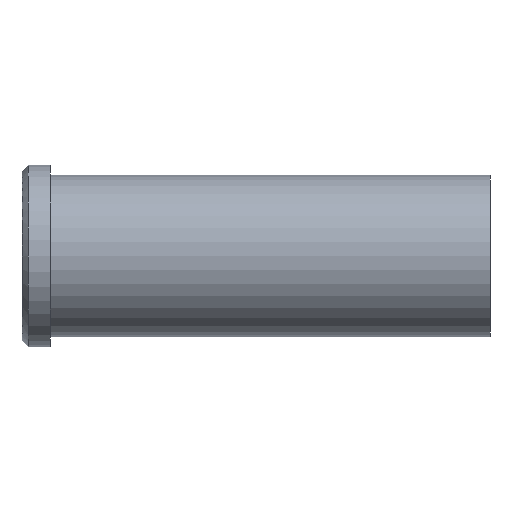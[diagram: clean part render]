
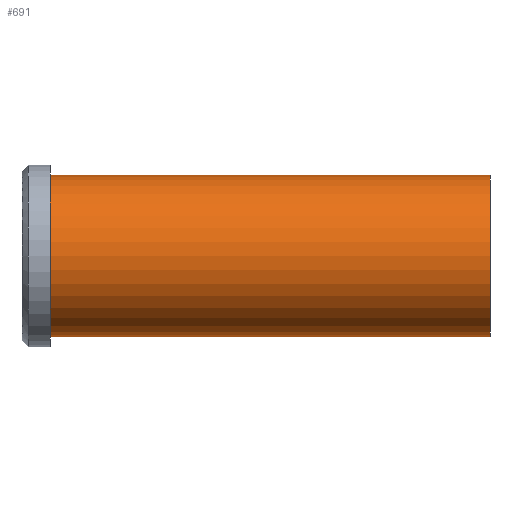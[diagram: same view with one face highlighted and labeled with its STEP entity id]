
A CAD part, front view. The second image highlights one B-rep face of the part: STEP entity #691.
In plain terms, the highlighted cylindrical face has radius 20 mm (diameter 40 mm), a partial arc.
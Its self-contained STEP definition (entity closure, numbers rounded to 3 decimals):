
#501=CARTESIAN_POINT('Vertex',(0.,0.,-20.)) ;
#506=CARTESIAN_POINT('Axis2P3D Location',(0.,0.,0.)) ;
#510=CARTESIAN_POINT('Vertex',(0.,-20.,0.)) ;
#513=CARTESIAN_POINT('Axis2P3D Location',(0.,0.,0.)) ;
#517=CARTESIAN_POINT('Vertex',(0.,0.,20.)) ;
#631=CARTESIAN_POINT('Line Origine',(109.,0.,20.)) ;
#635=CARTESIAN_POINT('Vertex',(109.,0.,20.)) ;
#649=CARTESIAN_POINT('Vertex',(109.,0.,-20.)) ;
#652=CARTESIAN_POINT('Line Origine',(109.,0.,-20.)) ;
#666=CARTESIAN_POINT('Axis2P3D Location',(109.,0.,0.)) ;
#671=CARTESIAN_POINT('Axis2P3D Location',(109.,0.,0.)) ;
#675=CARTESIAN_POINT('Vertex',(109.,-20.,0.)) ;
#678=CARTESIAN_POINT('Axis2P3D Location',(109.,0.,0.)) ;
#507=DIRECTION('Axis2P3D Direction',(1.,0.,-0.)) ;
#514=DIRECTION('Axis2P3D Direction',(1.,0.,-0.)) ;
#632=DIRECTION('Vector Direction',(-1.,0.,0.)) ;
#653=DIRECTION('Vector Direction',(-1.,0.,0.)) ;
#667=DIRECTION('Axis2P3D Direction',(-1.,-0.,-0.)) ;
#668=DIRECTION('Axis2P3D XDirection',(0.,0.,-1.)) ;
#672=DIRECTION('Axis2P3D Direction',(-1.,-0.,-0.)) ;
#679=DIRECTION('Axis2P3D Direction',(-1.,-0.,-0.)) ;
#508=AXIS2_PLACEMENT_3D('Circle Axis2P3D',#506,#507,$) ;
#515=AXIS2_PLACEMENT_3D('Circle Axis2P3D',#513,#514,$) ;
#669=AXIS2_PLACEMENT_3D('Cylinder Axis2P3D',#666,#667,#668) ;
#673=AXIS2_PLACEMENT_3D('Circle Axis2P3D',#671,#672,$) ;
#680=AXIS2_PLACEMENT_3D('Circle Axis2P3D',#678,#679,$) ;
#684=ORIENTED_EDGE('',*,*,#656,.T.) ;
#685=ORIENTED_EDGE('',*,*,#677,.F.) ;
#686=ORIENTED_EDGE('',*,*,#682,.F.) ;
#687=ORIENTED_EDGE('',*,*,#637,.T.) ;
#688=ORIENTED_EDGE('',*,*,#519,.T.) ;
#689=ORIENTED_EDGE('',*,*,#512,.T.) ;
#633=VECTOR('Line Direction',#632,1.) ;
#654=VECTOR('Line Direction',#653,1.) ;
#691=ADVANCED_FACE('353-32X116',(#690),#670,.T.) ;
#509=CIRCLE('generated circle',#508,20.) ;
#516=CIRCLE('generated circle',#515,20.) ;
#674=CIRCLE('generated circle',#673,20.) ;
#681=CIRCLE('generated circle',#680,20.) ;
#670=CYLINDRICAL_SURFACE('generated cylinder',#669,20.) ;
#512=EDGE_CURVE('',#511,#502,#509,.T.) ;
#519=EDGE_CURVE('',#518,#511,#516,.T.) ;
#637=EDGE_CURVE('',#636,#518,#634,.T.) ;
#656=EDGE_CURVE('',#502,#650,#655,.F.) ;
#677=EDGE_CURVE('',#676,#650,#674,.F.) ;
#682=EDGE_CURVE('',#636,#676,#681,.F.) ;
#683=EDGE_LOOP('',(#684,#685,#686,#687,#688,#689)) ;
#690=FACE_OUTER_BOUND('',#683,.T.) ;
#634=LINE('Line',#631,#633) ;
#655=LINE('Line',#652,#654) ;
#502=VERTEX_POINT('',#501) ;
#511=VERTEX_POINT('',#510) ;
#518=VERTEX_POINT('',#517) ;
#636=VERTEX_POINT('',#635) ;
#650=VERTEX_POINT('',#649) ;
#676=VERTEX_POINT('',#675) ;
